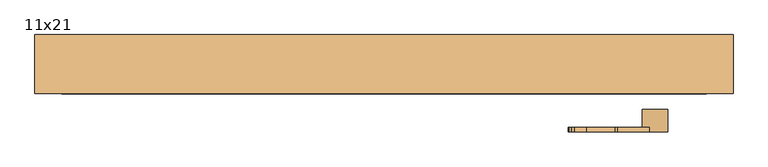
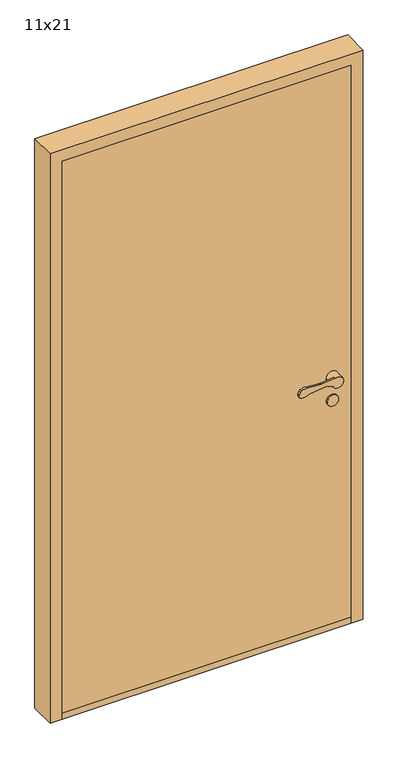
"""IFC4 building model written with IfcOpenShell, lengths in millimetres: door geometry, Innerdør Slett (Diplomat) : 11x21."""

from ifc_helpers import new_model, si_unit, point, frame, frame_2d, origin, origin_with_axes, place, context, project, spatial, polyline, circle_curve, trimmed, segment, composite_curve, outline, extrude, source, transform, mapped, element, save
from ifc_brep_helpers import plane_surface, cylinder_surface, revolved_surface, advanced_brep


def door_11x21_9736111e(model_context):
    return source(origin(), model_context, "Body", "SolidModel", [
        advanced_brep(
        [(443.9611305, 45.0, 949.1175955), (438.8520664, 45.0, 949.9496913), (376.0476109, 45.0, 943.6260011), (346.721536, 45.0, 938.7393398), (341.8691983, 45.0, 951.8913379), (345.505009, 45.0, 959.9624074), (350.3175669, 45.0, 964.8810513), (368.8963175, 45.0, 967.2639242), (413.6202158, 45.0, 964.1804415), (418.6891233, 45.0, 964.26032), (467.2687793, 45.0, 969.1517356), (496.379633, 45.0, 951.3474568), (458.3841161, 45.0, 942.6204086), (418.6891233, 37.8915284, 964.26032), (413.6202158, 37.8915284, 964.1804415), (368.8963175, 37.8915284, 967.2639242), (350.3175669, 37.8915284, 964.8810513), (345.505009, 37.8915284, 959.9624074), (341.8691983, 37.8915284, 951.8913379), (346.721536, 37.8915284, 938.7393398), (376.0476109, 37.8915284, 943.6260011), (438.8520664, 37.8915284, 949.9496913), (443.9611305, 37.8915284, 949.1175955), (458.3841161, 37.8915284, 942.6204086), (456.379633, 37.8915284, 951.3474568), (467.2687793, 37.8915284, 969.1517356), (496.379633, 10.0, 951.3474568), (456.379633, 10.0, 951.3474568)],
        [
            (0, 1, circle_curve(frame((439.8538865, 45.0, 940.0), z_axis=(0.0, -1.0, 0.0), x_axis=(-0.9949691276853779, 0.0, -0.10018200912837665)), 10.0)),
            (1, 2),
            (2, 3, circle_curve(frame((357.8569644, 45.0, 962.352734), z_axis=(0.0, 1.0, 0.0), x_axis=(-0.9949691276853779, 0.0, -0.10018200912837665)), 26.1072815)),
            (3, 4, circle_curve(frame((350.9867937, 45.0, 947.7840939), z_axis=(0.0, 1.0, 0.0), x_axis=(-0.9949691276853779, 0.0, -0.10018200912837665)), 10.0)),
            (4, 5),
            (5, 6, circle_curve(frame((354.6226045, 45.0, 955.8551634), z_axis=(0.0, 1.0, 0.0), x_axis=(-0.9949691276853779, 0.0, -0.10018200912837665)), 10.0)),
            (6, 7, circle_curve(frame((363.2326797, 45.0, 937.8033877), z_axis=(0.0, 1.0, 0.0), x_axis=(-0.9949691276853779, 0.0, -0.10018200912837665)), 30.0)),
            (7, 8),
            (8, 9, circle_curve(frame((415.683663, 45.0, 994.1093938), z_axis=(0.0, -1.0, 0.0), x_axis=(-0.9949691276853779, 0.0, -0.10018200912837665)), 30.0)),
            (9, 10),
            (10, 11, circle_curve(frame((476.379633, 45.0, 951.3474568), z_axis=(0.0, 1.0, 0.0), x_axis=(-1.0, 0.0, 0.0)), 20.0)),
            (11, 12, circle_curve(frame((476.379633, 45.0, 951.3474568), z_axis=(0.0, 1.0, 0.0), x_axis=(-1.0, 0.0, 0.0)), 20.0)),
            (12, 0),
            (13, 14, circle_curve(frame((415.683663, 37.8915284, 994.1093938), z_axis=(0.0, 1.0, 0.0), x_axis=(-0.9949691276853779, 0.0, -0.10018200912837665)), 30.0)),
            (14, 15),
            (15, 16, circle_curve(frame((363.2326797, 37.8915284, 937.8033877), z_axis=(0.0, -1.0, 0.0), x_axis=(-0.9949691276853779, 0.0, -0.10018200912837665)), 30.0)),
            (16, 17, circle_curve(frame((354.6226045, 37.8915284, 955.8551634), z_axis=(0.0, -1.0, 0.0), x_axis=(-0.9949691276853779, 0.0, -0.10018200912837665)), 10.0)),
            (17, 18),
            (18, 19, circle_curve(frame((350.9867937, 37.8915284, 947.7840939), z_axis=(0.0, -1.0, 0.0), x_axis=(-0.9949691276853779, 0.0, -0.10018200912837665)), 10.0)),
            (19, 20, circle_curve(frame((357.8569644, 37.8915284, 962.352734), z_axis=(0.0, -1.0, 0.0), x_axis=(-0.9949691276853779, 0.0, -0.10018200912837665)), 26.1072815)),
            (20, 21),
            (21, 22, circle_curve(frame((439.8538865, 37.8915284, 940.0), z_axis=(0.0, 1.0, 0.0), x_axis=(-0.9949691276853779, 0.0, -0.10018200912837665)), 10.0)),
            (22, 23),
            (23, 24, circle_curve(frame((476.379633, 37.8915284, 951.3474568), z_axis=(0.0, 1.0, 0.0), x_axis=(-1.0, 0.0, 0.0)), 20.0)),
            (24, 25, circle_curve(frame((476.379633, 37.8915284, 951.3474568), z_axis=(0.0, 1.0, 0.0), x_axis=(-1.0, 0.0, 0.0)), 20.0)),
            (25, 13),
            (9, 13),
            (25, 10),
            (22, 0),
            (12, 23),
            (21, 1),
            (20, 2),
            (19, 3),
            (18, 4),
            (17, 5),
            (16, 6),
            (15, 7),
            (14, 8),
            (26, 27, circle_curve(frame((476.379633, 10.0, 951.3474568), z_axis=(0.0, -1.0, 0.0), x_axis=(-1.0, 0.0, 0.0)), 20.0)),
            (27, 26, circle_curve(frame((476.379633, 10.0, 951.3474568), z_axis=(0.0, -1.0, 0.0), x_axis=(-1.0, 0.0, 0.0)), 20.0)),
            (27, 24),
            (11, 26),
        ],
        [
            plane_surface(frame((467.6960588, 45.0, 969.1947577), z_axis=(0.0, 1.0000000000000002, 0.0), x_axis=(0.9949691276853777, 0.0, 0.10018200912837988))),
            plane_surface(frame((467.6960588, 37.8915284, 969.1947577), z_axis=(0.0, -1.0000000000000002, 0.0), x_axis=(-0.9949691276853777, 0.0, -0.10018200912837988))),
            plane_surface(frame((418.6891233, 45.0, 964.26032), z_axis=(-0.10018200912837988, 0.0, 0.9949691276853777), x_axis=(0.0, -1.0, 0.0))),
            plane_surface(frame((476.9687366, 45.0, 934.2485115), z_axis=(-0.41072439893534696, 0.0, -0.91175954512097), x_axis=(0.0, -1.0, 0.0))),
            revolved_surface(polyline([(429.9041952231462, 37.8915284, 938.9981799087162), (429.9041952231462, 45.0, 938.9981799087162)]), (439.8538865, 37.8915284, 940.0), (0.0, -1.0, 0.0)),
            plane_surface(frame((438.8520664, 45.0, 949.9496913), z_axis=(0.10018200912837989, 0.0, -0.9949691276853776), x_axis=(0.0, -1.0, 0.0))),
            cylinder_surface(frame((357.8569644, 37.8915284, 962.352734), z_axis=(0.0, 1.0, 0.0), x_axis=(-0.9949691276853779, 0.0, -0.10018200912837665)), 26.1072815),
            cylinder_surface(frame((350.9867937, 37.8915284, 947.7840939), z_axis=(0.0, 1.0, 0.0), x_axis=(-0.9949691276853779, 0.0, -0.10018200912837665)), 10.0),
            plane_surface(frame((341.8691983, 45.0, 951.8913379), z_axis=(-0.9117595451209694, 0.0, 0.41072439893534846), x_axis=(0.0, -1.0, 0.0))),
            cylinder_surface(frame((354.6226045, 37.8915284, 955.8551634), z_axis=(0.0, 1.0, 0.0), x_axis=(-0.9949691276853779, 0.0, -0.10018200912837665)), 10.0),
            cylinder_surface(frame((363.2326797, 37.8915284, 937.8033877), z_axis=(0.0, 1.0, 0.0), x_axis=(-0.9949691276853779, 0.0, -0.10018200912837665)), 30.0),
            plane_surface(frame((368.8963175, 45.0, 967.2639242), z_axis=(0.06878157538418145, 0.0, 0.9976317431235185), x_axis=(0.0, -1.0, 0.0))),
            revolved_surface(polyline([(385.8345891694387, 37.8915284, 991.1039335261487), (385.8345891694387, 45.0, 991.1039335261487)]), (415.683663, 37.8915284, 994.1093938), (0.0, -1.0, 0.0)),
            plane_surface(frame((456.379633, 10.0, 951.3474568), z_axis=(0.0, -1.0, 0.0), x_axis=(0.0, 0.0, -1.0))),
            cylinder_surface(frame((476.379633, 10.0, 951.3474568), z_axis=(0.0, 1.0, 0.0), x_axis=(-1.0, 0.0, 0.0)), 20.0),
        ],
        [
            (0, [[1, 2, 3, 4, 5, 6, 7, 8, 9, 10, 11, 12, 13]]),
            (1, [[14, 15, 16, 17, 18, 19, 20, 21, 22, 23, 24, 25, 26]]),
            (2, [[27, -26, 28, -10]]),
            (3, [[29, -13, 30, -23]]),
            (4, [[-1, -29, -22, 31]]),
            (5, [[-2, -31, -21, 32]]),
            (6, [[-3, -32, -20, 33]]),
            (7, [[-4, -33, -19, 34]]),
            (8, [[-5, -34, -18, 35]]),
            (9, [[-6, -35, -17, 36]]),
            (10, [[-7, -36, -16, 37]]),
            (11, [[-8, -37, -15, 38]]),
            (12, [[-9, -38, -14, -27]]),
            (13, [[39, 40]]),
            (14, [[-40, 41, -24, -30, -12, 42]]),
            (14, [[-39, -42, -11, -28, -25, -41]]),
        ],
    ),
        extrude(outline(composite_curve([segment(trimmed(circle_curve(frame_2d((866.3474568, 476.379633)), 20.0), [point((866.3474568, 496.379633))], [point((866.3474568, 456.379633))], False, "CARTESIAN"), True, "CONTINUOUS"), segment(trimmed(circle_curve(frame_2d((866.3474568, 476.379633)), 20.0), [point((866.3474568, 456.379633))], [point((866.3474568, 496.379633))], False, "CARTESIAN"), True, "CONTINUOUS")], self_intersect=False)), frame((0.0, 10.0, 0.0), z_axis=(0.0, 1.0, 0.0), x_axis=(0.0, 0.0, 1.0)), (0.0, 0.0, 1.0), 5.0),
        advanced_brep(
        [(443.9611305, -100.0, 949.1175955), (458.3841161, -100.0, 942.6204086), (496.379633, -100.0, 951.3474568), (467.2687793, -100.0, 969.1517356), (418.6891233, -100.0, 964.26032), (413.6202158, -100.0, 964.1804415), (368.8963175, -100.0, 967.2639242), (350.3175669, -100.0, 964.8810513), (345.505009, -100.0, 959.9624074), (341.8691983, -100.0, 951.8913379), (346.721536, -100.0, 938.7393398), (376.0476109, -100.0, 943.6260011), (438.8520664, -100.0, 949.9496913), (418.6891233, -92.8915284, 964.26032), (467.2687793, -92.8915284, 969.1517356), (456.379633, -92.8915284, 951.3474568), (458.3841161, -92.8915284, 942.6204086), (443.9611305, -92.8915284, 949.1175955), (438.8520664, -92.8915284, 949.9496913), (376.0476109, -92.8915284, 943.6260011), (346.721536, -92.8915284, 938.7393398), (341.8691983, -92.8915284, 951.8913379), (345.505009, -92.8915284, 959.9624074), (350.3175669, -92.8915284, 964.8810513), (368.8963175, -92.8915284, 967.2639242), (413.6202158, -92.8915284, 964.1804415), (496.379633, -65.0, 951.3474568), (456.379633, -65.0, 951.3474568)],
        [
            (0, 1),
            (1, 2, circle_curve(frame((476.379633, -100.0, 951.3474568), z_axis=(0.0, -1.0, 0.0), x_axis=(-1.0, 0.0, 0.0)), 20.0)),
            (2, 3, circle_curve(frame((476.379633, -100.0, 951.3474568), z_axis=(0.0, -1.0, 0.0), x_axis=(-1.0, 0.0, 0.0)), 20.0)),
            (3, 4),
            (4, 5, circle_curve(frame((415.683663, -100.0, 994.1093938), z_axis=(0.0, 1.0, 0.0), x_axis=(-0.9949691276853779, 0.0, -0.10018200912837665)), 30.0)),
            (5, 6),
            (6, 7, circle_curve(frame((363.2326797, -100.0, 937.8033877), z_axis=(0.0, -1.0, 0.0), x_axis=(-0.9949691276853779, 0.0, -0.10018200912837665)), 30.0)),
            (7, 8, circle_curve(frame((354.6226045, -100.0, 955.8551634), z_axis=(0.0, -1.0, 0.0), x_axis=(-0.9949691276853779, 0.0, -0.10018200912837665)), 10.0)),
            (8, 9),
            (9, 10, circle_curve(frame((350.9867937, -100.0, 947.7840939), z_axis=(0.0, -1.0, 0.0), x_axis=(-0.9949691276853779, 0.0, -0.10018200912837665)), 10.0)),
            (10, 11, circle_curve(frame((357.8569644, -100.0, 962.352734), z_axis=(0.0, -1.0, 0.0), x_axis=(-0.9949691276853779, 0.0, -0.10018200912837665)), 26.1072815)),
            (11, 12),
            (12, 0, circle_curve(frame((439.8538865, -100.0, 940.0), z_axis=(0.0, 1.0, 0.0), x_axis=(-0.9949691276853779, 0.0, -0.10018200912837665)), 10.0)),
            (13, 14),
            (14, 15, circle_curve(frame((476.379633, -92.8915284, 951.3474568), z_axis=(0.0, -1.0, 0.0), x_axis=(-1.0, 0.0, 0.0)), 20.0)),
            (15, 16, circle_curve(frame((476.379633, -92.8915284, 951.3474568), z_axis=(0.0, -1.0, 0.0), x_axis=(-1.0, 0.0, 0.0)), 20.0)),
            (16, 17),
            (17, 18, circle_curve(frame((439.8538865, -92.8915284, 940.0), z_axis=(0.0, -1.0, 0.0), x_axis=(-0.9949691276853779, 0.0, -0.10018200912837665)), 10.0)),
            (18, 19),
            (19, 20, circle_curve(frame((357.8569644, -92.8915284, 962.352734), z_axis=(0.0, 1.0, 0.0), x_axis=(-0.9949691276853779, 0.0, -0.10018200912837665)), 26.1072815)),
            (20, 21, circle_curve(frame((350.9867937, -92.8915284, 947.7840939), z_axis=(0.0, 1.0, 0.0), x_axis=(-0.9949691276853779, 0.0, -0.10018200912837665)), 10.0)),
            (21, 22),
            (22, 23, circle_curve(frame((354.6226045, -92.8915284, 955.8551634), z_axis=(0.0, 1.0, 0.0), x_axis=(-0.9949691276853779, 0.0, -0.10018200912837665)), 10.0)),
            (23, 24, circle_curve(frame((363.2326797, -92.8915284, 937.8033877), z_axis=(0.0, 1.0, 0.0), x_axis=(-0.9949691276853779, 0.0, -0.10018200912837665)), 30.0)),
            (24, 25),
            (25, 13, circle_curve(frame((415.683663, -92.8915284, 994.1093938), z_axis=(0.0, -1.0, 0.0), x_axis=(-0.9949691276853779, 0.0, -0.10018200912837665)), 30.0)),
            (3, 14),
            (13, 4),
            (16, 1),
            (0, 17),
            (12, 18),
            (11, 19),
            (10, 20),
            (9, 21),
            (8, 22),
            (7, 23),
            (6, 24),
            (5, 25),
            (26, 27, circle_curve(frame((476.379633, -65.0, 951.3474568), z_axis=(0.0, 1.0, 0.0), x_axis=(-1.0, 0.0, 0.0)), 20.0)),
            (27, 26, circle_curve(frame((476.379633, -65.0, 951.3474568), z_axis=(0.0, 1.0, 0.0), x_axis=(-1.0, 0.0, 0.0)), 20.0)),
            (26, 2),
            (15, 27),
        ],
        [
            plane_surface(frame((467.6960588, -100.0, 969.1947577), z_axis=(0.0, -1.0000000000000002, 0.0), x_axis=(0.9949691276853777, 0.0, 0.10018200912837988))),
            plane_surface(frame((467.6960588, -92.8915284, 969.1947577), z_axis=(0.0, 1.0000000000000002, 0.0), x_axis=(-0.9949691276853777, 0.0, -0.10018200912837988))),
            plane_surface(frame((418.6891233, -100.0, 964.26032), z_axis=(-0.10018200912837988, 0.0, 0.9949691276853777), x_axis=(0.0, 1.0, 0.0))),
            plane_surface(frame((476.9687366, -100.0, 934.2485115), z_axis=(-0.41072439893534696, 0.0, -0.91175954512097), x_axis=(0.0, 1.0, 0.0))),
            revolved_surface(polyline([(429.9041952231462, -92.8915284, 938.9981799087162), (429.9041952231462, -100.0, 938.9981799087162)]), (439.8538865, -92.8915284, 940.0), (0.0, 1.0, 0.0)),
            plane_surface(frame((438.8520664, -100.0, 949.9496913), z_axis=(0.10018200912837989, 0.0, -0.9949691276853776), x_axis=(0.0, 1.0, 0.0))),
            cylinder_surface(frame((357.8569644, -92.8915284, 962.352734), z_axis=(0.0, -1.0, 0.0), x_axis=(-0.9949691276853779, 0.0, -0.10018200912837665)), 26.1072815),
            cylinder_surface(frame((350.9867937, -92.8915284, 947.7840939), z_axis=(0.0, -1.0, 0.0), x_axis=(-0.9949691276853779, 0.0, -0.10018200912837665)), 10.0),
            plane_surface(frame((341.8691983, -100.0, 951.8913379), z_axis=(-0.9117595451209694, 0.0, 0.41072439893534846), x_axis=(0.0, 1.0, 0.0))),
            cylinder_surface(frame((354.6226045, -92.8915284, 955.8551634), z_axis=(0.0, -1.0, 0.0), x_axis=(-0.9949691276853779, 0.0, -0.10018200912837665)), 10.0),
            cylinder_surface(frame((363.2326797, -92.8915284, 937.8033877), z_axis=(0.0, -1.0, 0.0), x_axis=(-0.9949691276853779, 0.0, -0.10018200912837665)), 30.0),
            plane_surface(frame((368.8963175, -100.0, 967.2639242), z_axis=(0.06878157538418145, 0.0, 0.9976317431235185), x_axis=(0.0, 1.0, 0.0))),
            revolved_surface(polyline([(385.8345891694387, -92.8915284, 991.1039335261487), (385.8345891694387, -100.0, 991.1039335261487)]), (415.683663, -92.8915284, 994.1093938), (0.0, 1.0, 0.0)),
            plane_surface(frame((456.379633, -65.0, 951.3474568), z_axis=(0.0, 1.0, 0.0), x_axis=(0.0, 0.0, -1.0))),
            cylinder_surface(frame((476.379633, -65.0, 951.3474568), z_axis=(0.0, -1.0, 0.0), x_axis=(-1.0, 0.0, 0.0)), 20.0),
        ],
        [
            (0, [[1, 2, 3, 4, 5, 6, 7, 8, 9, 10, 11, 12, 13]]),
            (1, [[14, 15, 16, 17, 18, 19, 20, 21, 22, 23, 24, 25, 26]]),
            (2, [[-4, 27, -14, 28]]),
            (3, [[-17, 29, -1, 30]]),
            (4, [[31, -18, -30, -13]]),
            (5, [[32, -19, -31, -12]]),
            (6, [[33, -20, -32, -11]]),
            (7, [[34, -21, -33, -10]]),
            (8, [[35, -22, -34, -9]]),
            (9, [[36, -23, -35, -8]]),
            (10, [[37, -24, -36, -7]]),
            (11, [[38, -25, -37, -6]]),
            (12, [[-28, -26, -38, -5]]),
            (13, [[39, 40]]),
            (14, [[41, -2, -29, -16, 42, -39]]),
            (14, [[-42, -15, -27, -3, -41, -40]]),
        ],
    ),
        extrude(outline(composite_curve([segment(trimmed(circle_curve(frame_2d((866.3474568, 476.379633)), 20.0), [point((866.3474568, 496.379633))], [point((866.3474568, 456.379633))], False, "CARTESIAN"), True, "CONTINUOUS"), segment(trimmed(circle_curve(frame_2d((866.3474568, 476.379633)), 20.0), [point((866.3474568, 456.379633))], [point((866.3474568, 496.379633))], False, "CARTESIAN"), True, "CONTINUOUS")], self_intersect=False)), frame((0.0, -70.0, 0.0), z_axis=(0.0, 1.0, 0.0), x_axis=(0.0, 0.0, 1.0)), (0.0, 0.0, 1.0), 5.0),
        extrude(outline(polyline([(556.379633, 52.0), (556.379633, -40.0), (-449.620367, -40.0), (-449.620367, 52.0), (556.379633, 52.0)])), origin_with_axes(), (0.0, 0.0, 1.0), 22.0),
        extrude(outline(polyline([(556.379633, 10.0), (556.379633, -40.0), (-449.620367, -40.0), (-449.620367, 10.0), (556.379633, 10.0)])), frame((0.0, 0.0, 22.0), z_axis=(0.0, 0.0, 1.0), x_axis=(1.0, 0.0, 0.0)), (0.0, 0.0, 1.0), 2031.0),
        extrude(outline(polyline([(0.0, -449.620367), (2053.0, -449.620367), (2053.0, 556.379633), (0.0, 556.379633), (0.0, 598.379633), (2095.0, 598.379633), (2095.0, -491.620367), (0.0, -491.620367), (0.0, -449.620367)])), frame((0.0, -40.0, 0.0), z_axis=(0.0, 1.0, 0.0), x_axis=(0.0, 0.0, 1.0)), (0.0, 0.0, 1.0), 92.0),
    ])


if __name__ == "__main__":
    model = new_model("IFC4")
    model_context = context("Model", 3, world=origin())
    ifc_project = project(units=[si_unit("LENGTHUNIT", "METRE", prefix="MILLI")], contexts=[model_context])
    site = spatial("IfcSite", under=ifc_project)
    building = spatial("IfcBuilding", under=site)
    placement = place(None, origin())
    door_11x21_shape = door_11x21_9736111e(model_context)
    element("IfcDoor", 1, ObjectType="Innerdør Slett (Diplomat) : 11x21", at=placement, inside=building, context=model_context, shape_type="MappedRepresentation", body=[
        mapped(door_11x21_shape, transform((0.0, 0.0, 0.0), x_axis=(1.0, 0.0, 0.0), y_axis=(0.0, 1.0, 0.0), z_axis=(0.0, 0.0, 1.0))),
    ])
    save(model, "model.ifc")
